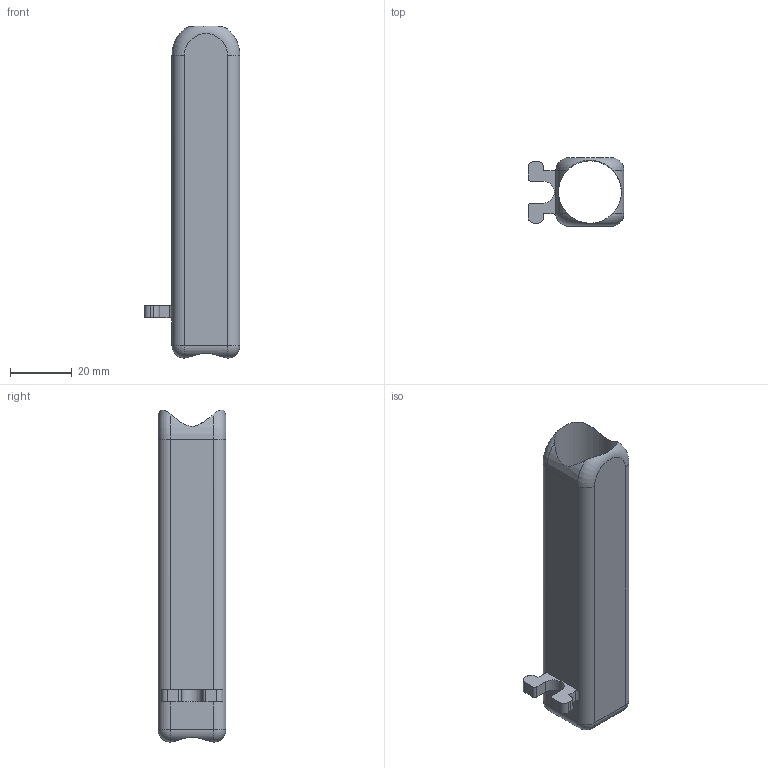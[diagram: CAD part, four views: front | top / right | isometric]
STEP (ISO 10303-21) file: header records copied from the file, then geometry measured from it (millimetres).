
FILE_DESCRIPTION(/* description */ (''),/* implementation_level */ '2;1');
FILE_NAME(/* name */ 'C:/Users/Owner/Desktop/K-CAD Songbird PM4 Centerfire/STEP/Barrels/Barrel Type 3/Barrel Type 3 0.8 inch ID.step',/* time_stamp */ '2020-12-05T21:28:55-05:00',/* author */ (''),/* organization */ (''),/* preprocessor_version */ 'ST-DEVELOPER v18.1',/* originating_system */ 'Autodesk Translation Framework v9.3.0.1241',/* authorisation */ '');
FILE_SCHEMA (('AUTOMOTIVE_DESIGN { 1 0 10303 214 3 1 1 }'));
Length unit declared in the file: inch
Products named in the file (1): Barrel Type 3 0.8 inch ID
Bounding box: 31 x 22 x 107.47 mm (x, y, z)
Volume: 15337.6 mm3; surface area: 15606.2 mm2
Topology: 1 solids, 1 shells, 43 faces, 120 edges, 76 vertices
Faces by surface type: cylinder 20, plane 17, sphere 4, torus 2
Full cylindrical faces by diameter (mm): 20.32 x1
Entity records: 1531 total; most frequent: CARTESIAN_POINT 373, DIRECTION 239, ORIENTED_EDGE 238, EDGE_CURVE 119, AXIS2_PLACEMENT_3D 90, VERTEX_POINT 76, LINE 59, VECTOR 59
